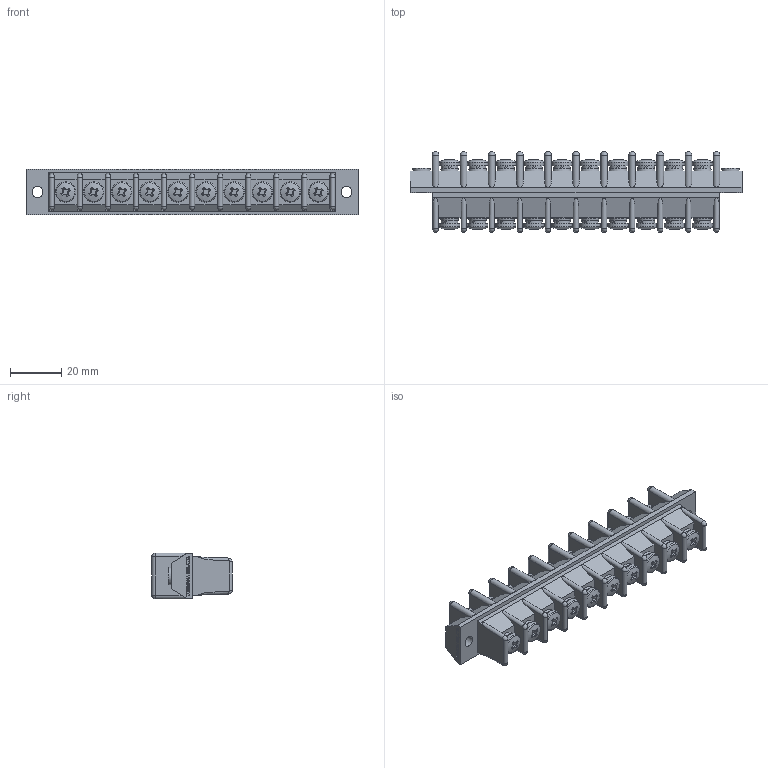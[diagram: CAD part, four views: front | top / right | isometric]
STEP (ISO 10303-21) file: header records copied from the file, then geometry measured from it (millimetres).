
FILE_DESCRIPTION(/* description */ ('Alibre Inc.'),/* implementation_level */ '2;1');
FILE_NAME(/* name */ 'export0',/* time_stamp */ '2016-01-16T17:46:27+09:00',/* author */ (''),/* organization */ (''),/* preprocessor_version */ 'ST-DEVELOPER v14',/* originating_system */ 'Alibre',/* authorisation */ '');
FILE_SCHEMA (('CONFIG_CONTROL_DESIGN'));
Length unit declared in the file: centimetre
Products named in the file (1): ID_1
Bounding box: 130 x 31.57 x 18 mm (x, y, z)
Volume: 39080.9 mm3; surface area: 18568.3 mm2
Topology: 1 solids, 11 shells, 1193 faces, 3072 edges, 2024 vertices
Faces by surface type: plane 745, cylinder 140, cone 120, bspline 104, torus 64, sphere 20
Full cylindrical faces by diameter (mm): 4 x10, 4.3 x2, 6.5 x20, 7 x2, 8 x20
Entity records: 35360 total; most frequent: CARTESIAN_POINT 7693, ORIENTED_EDGE 5932, DIRECTION 4966, EDGE_CURVE 2966, AXIS2_PLACEMENT_3D 2085, VERTEX_POINT 2012, VECTOR 1548, LINE 1548
